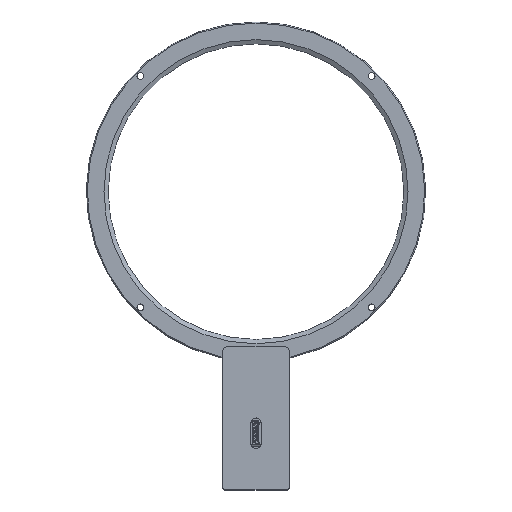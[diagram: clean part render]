
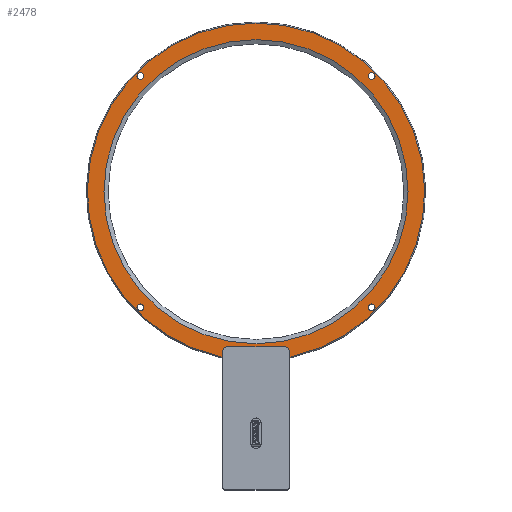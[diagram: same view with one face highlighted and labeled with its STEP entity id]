
A CAD part, top view. The second image highlights one B-rep face of the part: STEP entity #2478.
In plain terms, the highlighted planar face has unit normal (0, 0, 1).
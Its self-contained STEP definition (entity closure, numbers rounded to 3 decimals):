
#58 = LINE ( 'NONE', #2111, #5928 ) ;
#71 = CARTESIAN_POINT ( 'NONE',  ( -114.004, 28.273, -16.512 ) ) ;
#92 = CARTESIAN_POINT ( 'NONE',  ( -41.185, 5.304, -16.512 ) ) ;
#133 = VERTEX_POINT ( 'NONE', #1643 ) ;
#180 = FACE_BOUND ( 'NONE', #3037, .T. ) ;
#203 = LINE ( 'NONE', #5828, #4417 ) ;
#230 = DIRECTION ( 'NONE',  ( 0., 1., 0. ) ) ;
#247 = DIRECTION ( 'NONE',  ( 0., 0., 1. ) ) ;
#274 = CARTESIAN_POINT ( 'NONE',  ( -57.435, 83.191, -16.512 ) ) ;
#301 = CIRCLE ( 'NONE', #4054, 1.65 ) ;
#353 = AXIS2_PLACEMENT_3D ( 'NONE', #2247, #1309, #2866 ) ;
#484 = CARTESIAN_POINT ( 'NONE',  ( -0.867, 141.41, -16.512 ) ) ;
#510 = VERTEX_POINT ( 'NONE', #484 ) ;
#563 = CIRCLE ( 'NONE', #5379, 74.376 ) ;
#603 = ORIENTED_EDGE ( 'NONE', *, *, #4214, .F. ) ;
#651 = CARTESIAN_POINT ( 'NONE',  ( -43.185, 7.304, -16.512 ) ) ;
#804 = ORIENTED_EDGE ( 'NONE', *, *, #3061, .F. ) ;
#950 = CIRCLE ( 'NONE', #4678, 82.5 ) ;
#1011 = EDGE_CURVE ( 'NONE', #4861, #133, #3682, .T. ) ;
#1044 = CARTESIAN_POINT ( 'NONE',  ( -40.238, 2.504, -16.512 ) ) ;
#1118 = VERTEX_POINT ( 'NONE', #71 ) ;
#1144 = DIRECTION ( 'NONE',  ( 0., 1., 0. ) ) ;
#1166 = FACE_OUTER_BOUND ( 'NONE', #3668, .T. ) ;
#1197 = CIRCLE ( 'NONE', #5144, 1.65 ) ;
#1202 = FACE_BOUND ( 'NONE', #2410, .T. ) ;
#1226 = ORIENTED_EDGE ( 'NONE', *, *, #6017, .F. ) ;
#1241 = DIRECTION ( 'NONE',  ( 0., 0., 1. ) ) ;
#1291 = DIRECTION ( 'NONE',  ( 0., 0., 1. ) ) ;
#1300 = FACE_BOUND ( 'NONE', #4768, .T. ) ;
#1309 = DIRECTION ( 'NONE',  ( 0., 0., 1. ) ) ;
#1311 = CARTESIAN_POINT ( 'NONE',  ( -131.811, 2.504, -16.512 ) ) ;
#1387 = EDGE_CURVE ( 'NONE', #5585, #5519, #950, .T. ) ;
#1412 = DIRECTION ( 'NONE',  ( -1., 0., 0. ) ) ;
#1413 = VECTOR ( 'NONE', #1412, 1000. ) ;
#1444 = DIRECTION ( 'NONE',  ( -1., 0., 0. ) ) ;
#1529 = DIRECTION ( 'NONE',  ( 0., 1., 0. ) ) ;
#1635 = AXIS2_PLACEMENT_3D ( 'NONE', #3678, #5632, #4733 ) ;
#1643 = CARTESIAN_POINT ( 'NONE',  ( -41.185, 2.504, -16.512 ) ) ;
#1738 = AXIS2_PLACEMENT_3D ( 'NONE', #6070, #3154, #1529 ) ;
#1795 = EDGE_CURVE ( 'NONE', #133, #5585, #58, .T. ) ;
#2046 = DIRECTION ( 'NONE',  ( 1., 0., 0. ) ) ;
#2064 = ORIENTED_EDGE ( 'NONE', *, *, #4938, .F. ) ;
#2065 = VERTEX_POINT ( 'NONE', #3162 ) ;
#2111 = CARTESIAN_POINT ( 'NONE',  ( -131.811, 2.504, -16.512 ) ) ;
#2247 = CARTESIAN_POINT ( 'NONE',  ( -43.185, 5.304, -16.512 ) ) ;
#2273 = FACE_BOUND ( 'NONE', #6188, .T. ) ;
#2290 = CIRCLE ( 'NONE', #353, 2. ) ;
#2410 = EDGE_LOOP ( 'NONE', ( #3381 ) ) ;
#2425 = ORIENTED_EDGE ( 'NONE', *, *, #3691, .F. ) ;
#2473 = CIRCLE ( 'NONE', #1635, 1.65 ) ;
#2478 = ADVANCED_FACE ( 'NONE', ( #1202, #180, #2273, #1300, #5373, #1166 ), #4329, .F. ) ;
#2610 = CIRCLE ( 'NONE', #4750, 2. ) ;
#2866 = DIRECTION ( 'NONE',  ( -1., 0., 0. ) ) ;
#3036 = CARTESIAN_POINT ( 'NONE',  ( -57.435, 157.568, -16.512 ) ) ;
#3037 = EDGE_LOOP ( 'NONE', ( #603 ) ) ;
#3061 = EDGE_CURVE ( 'NONE', #1118, #1118, #1197, .T. ) ;
#3154 = DIRECTION ( 'NONE',  ( 0., 0., 1. ) ) ;
#3162 = CARTESIAN_POINT ( 'NONE',  ( -114.004, 141.41, -16.512 ) ) ;
#3279 = DIRECTION ( 'NONE',  ( 0., -1., 0. ) ) ;
#3369 = CARTESIAN_POINT ( 'NONE',  ( -114.004, 26.623, -16.512 ) ) ;
#3380 = CARTESIAN_POINT ( 'NONE',  ( -43.185, 7.304, -16.512 ) ) ;
#3381 = ORIENTED_EDGE ( 'NONE', *, *, #4614, .F. ) ;
#3421 = VECTOR ( 'NONE', #4560, 1000. ) ;
#3505 = EDGE_CURVE ( 'NONE', #5519, #6120, #5572, .T. ) ;
#3597 = EDGE_CURVE ( 'NONE', #2065, #2065, #2473, .T. ) ;
#3621 = VERTEX_POINT ( 'NONE', #4232 ) ;
#3668 = EDGE_LOOP ( 'NONE', ( #6137, #5999, #4158, #6177, #6487, #4799, #1226, #2425 ) ) ;
#3678 = CARTESIAN_POINT ( 'NONE',  ( -114.004, 139.76, -16.512 ) ) ;
#3682 = LINE ( 'NONE', #5803, #6389 ) ;
#3691 = EDGE_CURVE ( 'NONE', #5062, #3621, #5958, .T. ) ;
#3770 = CARTESIAN_POINT ( 'NONE',  ( -0.867, 139.76, -16.512 ) ) ;
#3867 = DIRECTION ( 'NONE',  ( 0., -1., 0. ) ) ;
#3902 = CARTESIAN_POINT ( 'NONE',  ( -131.811, 83.191, -16.512 ) ) ;
#3948 = CARTESIAN_POINT ( 'NONE',  ( -71.685, 5.304, -16.512 ) ) ;
#4054 = AXIS2_PLACEMENT_3D ( 'NONE', #3770, #4654, #1144 ) ;
#4152 = ORIENTED_EDGE ( 'NONE', *, *, #3597, .F. ) ;
#4158 = ORIENTED_EDGE ( 'NONE', *, *, #1795, .T. ) ;
#4188 = AXIS2_PLACEMENT_3D ( 'NONE', #3902, #5978, #3279 ) ;
#4214 = EDGE_CURVE ( 'NONE', #5093, #5093, #6424, .T. ) ;
#4232 = CARTESIAN_POINT ( 'NONE',  ( -71.685, 7.304, -16.512 ) ) ;
#4254 = VERTEX_POINT ( 'NONE', #6267 ) ;
#4329 = PLANE ( 'NONE',  #4188 ) ;
#4359 = DIRECTION ( 'NONE',  ( 0., 1., 0. ) ) ;
#4374 = DIRECTION ( 'NONE',  ( 0., 0., 1. ) ) ;
#4417 = VECTOR ( 'NONE', #5168, 1000. ) ;
#4560 = DIRECTION ( 'NONE',  ( 1., 0., 0. ) ) ;
#4584 = CARTESIAN_POINT ( 'NONE',  ( -0.867, 28.273, -16.512 ) ) ;
#4614 = EDGE_CURVE ( 'NONE', #510, #510, #301, .T. ) ;
#4654 = DIRECTION ( 'NONE',  ( 0., 0., 1. ) ) ;
#4678 = AXIS2_PLACEMENT_3D ( 'NONE', #274, #247, #3867 ) ;
#4733 = DIRECTION ( 'NONE',  ( 0., 1., 0. ) ) ;
#4750 = AXIS2_PLACEMENT_3D ( 'NONE', #3948, #4374, #1444 ) ;
#4768 = EDGE_LOOP ( 'NONE', ( #4152 ) ) ;
#4771 = CARTESIAN_POINT ( 'NONE',  ( -57.435, 83.191, -16.512 ) ) ;
#4799 = ORIENTED_EDGE ( 'NONE', *, *, #5336, .T. ) ;
#4861 = VERTEX_POINT ( 'NONE', #92 ) ;
#4871 = CARTESIAN_POINT ( 'NONE',  ( -73.685, 2.504, -16.512 ) ) ;
#4938 = EDGE_CURVE ( 'NONE', #6175, #6175, #563, .T. ) ;
#4949 = EDGE_CURVE ( 'NONE', #4861, #5062, #2290, .T. ) ;
#5062 = VERTEX_POINT ( 'NONE', #651 ) ;
#5093 = VERTEX_POINT ( 'NONE', #4584 ) ;
#5144 = AXIS2_PLACEMENT_3D ( 'NONE', #3369, #1291, #4359 ) ;
#5168 = DIRECTION ( 'NONE',  ( 0., 1., 0. ) ) ;
#5336 = EDGE_CURVE ( 'NONE', #6120, #4254, #203, .T. ) ;
#5366 = CARTESIAN_POINT ( 'NONE',  ( -74.633, 2.504, -16.512 ) ) ;
#5373 = FACE_BOUND ( 'NONE', #6295, .T. ) ;
#5379 = AXIS2_PLACEMENT_3D ( 'NONE', #4771, #1241, #230 ) ;
#5519 = VERTEX_POINT ( 'NONE', #5366 ) ;
#5572 = LINE ( 'NONE', #1311, #3421 ) ;
#5585 = VERTEX_POINT ( 'NONE', #1044 ) ;
#5632 = DIRECTION ( 'NONE',  ( 0., 0., 1. ) ) ;
#5803 = CARTESIAN_POINT ( 'NONE',  ( -41.185, -50.696, -16.512 ) ) ;
#5828 = CARTESIAN_POINT ( 'NONE',  ( -73.685, -50.696, -16.512 ) ) ;
#5928 = VECTOR ( 'NONE', #2046, 1000. ) ;
#5958 = LINE ( 'NONE', #3380, #1413 ) ;
#5978 = DIRECTION ( 'NONE',  ( 0., 0., -1. ) ) ;
#5999 = ORIENTED_EDGE ( 'NONE', *, *, #1011, .T. ) ;
#6017 = EDGE_CURVE ( 'NONE', #3621, #4254, #2610, .T. ) ;
#6070 = CARTESIAN_POINT ( 'NONE',  ( -0.867, 26.623, -16.512 ) ) ;
#6120 = VERTEX_POINT ( 'NONE', #4871 ) ;
#6137 = ORIENTED_EDGE ( 'NONE', *, *, #4949, .F. ) ;
#6175 = VERTEX_POINT ( 'NONE', #3036 ) ;
#6177 = ORIENTED_EDGE ( 'NONE', *, *, #1387, .T. ) ;
#6188 = EDGE_LOOP ( 'NONE', ( #804 ) ) ;
#6224 = DIRECTION ( 'NONE',  ( 0., -1., 0. ) ) ;
#6267 = CARTESIAN_POINT ( 'NONE',  ( -73.685, 5.304, -16.512 ) ) ;
#6295 = EDGE_LOOP ( 'NONE', ( #2064 ) ) ;
#6389 = VECTOR ( 'NONE', #6224, 1000. ) ;
#6424 = CIRCLE ( 'NONE', #1738, 1.65 ) ;
#6487 = ORIENTED_EDGE ( 'NONE', *, *, #3505, .T. ) ;
